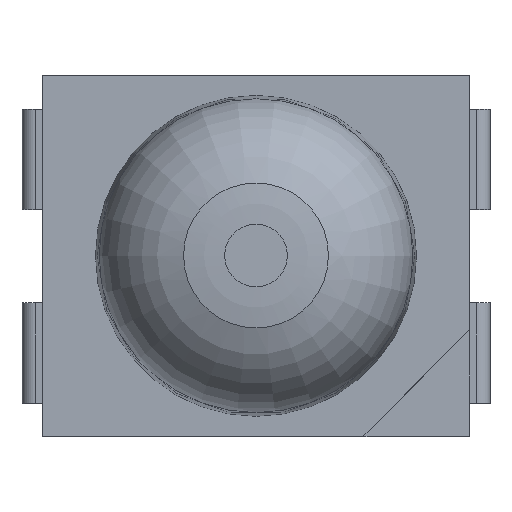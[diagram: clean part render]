
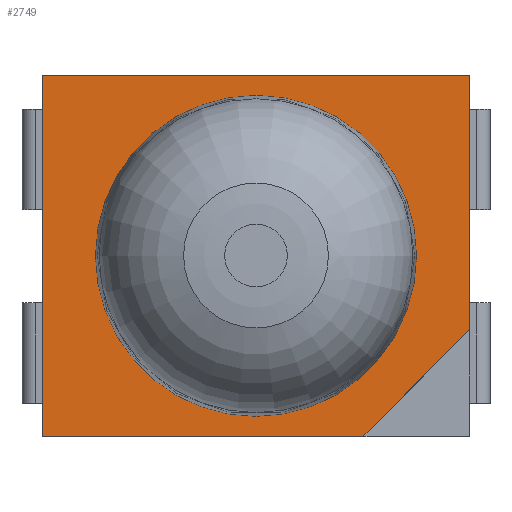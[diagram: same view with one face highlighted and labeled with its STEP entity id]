
A CAD part, top view. The second image highlights one B-rep face of the part: STEP entity #2749.
In plain terms, the highlighted planar face has unit normal (0, 0, 1).
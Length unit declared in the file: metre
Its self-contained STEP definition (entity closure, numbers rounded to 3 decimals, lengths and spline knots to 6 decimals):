
#145=CIRCLE('',#2967,0.0012);
#232=ORIENTED_EDGE('',*,*,#1024,.F.);
#233=ORIENTED_EDGE('',*,*,#1010,.T.);
#234=ORIENTED_EDGE('',*,*,#1014,.T.);
#235=ORIENTED_EDGE('',*,*,#1017,.T.);
#236=ORIENTED_EDGE('',*,*,#1020,.F.);
#237=ORIENTED_EDGE('',*,*,#1025,.F.);
#1010=EDGE_CURVE('',#1413,#1414,#1681,.T.);
#1014=EDGE_CURVE('',#1414,#1417,#1685,.T.);
#1017=EDGE_CURVE('',#1417,#1419,#1688,.T.);
#1020=EDGE_CURVE('',#1421,#1419,#1691,.T.);
#1024=EDGE_CURVE('',#1424,#1424,#145,.T.);
#1025=EDGE_CURVE('',#1413,#1421,#1694,.T.);
#1413=VERTEX_POINT('',#3802);
#1414=VERTEX_POINT('',#3803);
#1417=VERTEX_POINT('',#3811);
#1419=VERTEX_POINT('',#3817);
#1421=VERTEX_POINT('',#3823);
#1424=VERTEX_POINT('',#3831);
#1681=LINE('',#3801,#1980);
#1685=LINE('',#3810,#1984);
#1688=LINE('',#3816,#1987);
#1691=LINE('',#3822,#1990);
#1694=LINE('',#3833,#1993);
#1980=VECTOR('',#3144,1.);
#1984=VECTOR('',#3150,1.);
#1987=VECTOR('',#3155,1.);
#1990=VECTOR('',#3160,1.);
#1993=VECTOR('',#3171,1.);
#2288=EDGE_LOOP('',(#232));
#2289=EDGE_LOOP('',(#233,#234,#235,#236,#237));
#2467=FACE_BOUND('',#2288,.T.);
#2468=FACE_BOUND('',#2289,.T.);
#2643=PLANE('',#2970);
#2749=ADVANCED_FACE('',(#2467,#2468),#2643,.T.);
#2967=AXIS2_PLACEMENT_3D('',#3830,#3167,#3168);
#2970=AXIS2_PLACEMENT_3D('',#3836,#3175,#3176);
#3144=DIRECTION('',(-1.,0.,0.));
#3150=DIRECTION('',(0.,-1.,0.));
#3155=DIRECTION('',(0.707,-0.707,0.));
#3160=DIRECTION('',(-1.,0.,0.));
#3167=DIRECTION('',(0.,0.,1.));
#3168=DIRECTION('',(0.,-1.,0.));
#3171=DIRECTION('',(0.,-1.,0.));
#3175=DIRECTION('',(0.,0.,1.));
#3176=DIRECTION('',(1.,0.,0.));
#3801=CARTESIAN_POINT('',(0.,0.0016,0.00125));
#3802=CARTESIAN_POINT('',(0.00135,0.0016,0.00125));
#3803=CARTESIAN_POINT('',(-0.00135,0.0016,0.00125));
#3810=CARTESIAN_POINT('',(-0.00135,0.,0.00125));
#3811=CARTESIAN_POINT('',(-0.00135,-0.0008,0.00125));
#3816=CARTESIAN_POINT('',(-0.00095,-0.0012,0.00125));
#3817=CARTESIAN_POINT('',(-0.00055,-0.0016,0.00125));
#3822=CARTESIAN_POINT('',(0.,-0.0016,0.00125));
#3823=CARTESIAN_POINT('',(0.00135,-0.0016,0.00125));
#3830=CARTESIAN_POINT('',(0.,0.,0.00125));
#3831=CARTESIAN_POINT('',(0.,-0.0012,0.00125));
#3833=CARTESIAN_POINT('',(0.00135,0.,0.00125));
#3836=CARTESIAN_POINT('',(0.,0.,0.00125));
